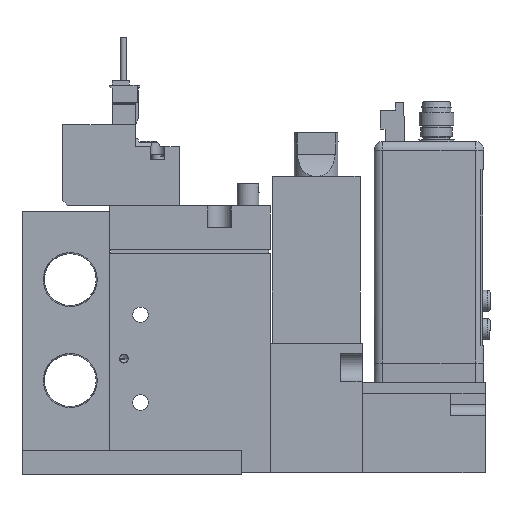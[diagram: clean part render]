
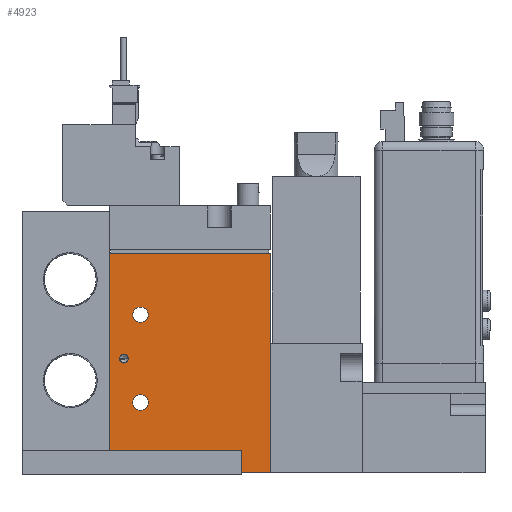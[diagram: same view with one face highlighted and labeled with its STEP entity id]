
A CAD part, left-side view. The second image highlights one B-rep face of the part: STEP entity #4923.
In plain terms, the highlighted planar face has unit normal (-1, 0, 0) as drawn and (1, 0, 0) by its records, which use the part's own axes.
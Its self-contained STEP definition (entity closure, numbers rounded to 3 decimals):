
#4923=ADVANCED_FACE('',(#10020,#10021,#10022,#10023),#10024,.F.);
#10020=FACE_BOUND('',#20367,.T.);
#10021=FACE_BOUND('',#20368,.T.);
#10022=FACE_BOUND('',#20369,.T.);
#10023=FACE_OUTER_BOUND('',#20370,.T.);
#10024=PLANE('',#20371);
#20367=EDGE_LOOP('',(#33325));
#20368=EDGE_LOOP('',(#33326));
#20369=EDGE_LOOP('',(#33327));
#20370=EDGE_LOOP('',(#33328,#33329,#33330,#33331));
#20371=AXIS2_PLACEMENT_3D('',#33332,#33333,#33334);
#33325=ORIENTED_EDGE('',*,*,#66540,.F.);
#33326=ORIENTED_EDGE('',*,*,#66541,.T.);
#33327=ORIENTED_EDGE('',*,*,#66542,.T.);
#33328=ORIENTED_EDGE('',*,*,#66535,.T.);
#33329=ORIENTED_EDGE('',*,*,#66532,.F.);
#33330=ORIENTED_EDGE('',*,*,#66536,.F.);
#33331=ORIENTED_EDGE('',*,*,#66527,.T.);
#33332=CARTESIAN_POINT('',(8.5,-19.444,50.0));
#33333=DIRECTION('',(-1.0,0.0,0.0));
#33334=DIRECTION('',(0.0,0.0,1.0));
#66527=EDGE_CURVE('',#79102,#79100,#79103,.T.);
#66532=EDGE_CURVE('',#79109,#79107,#79111,.T.);
#66535=EDGE_CURVE('',#79100,#79107,#79116,.T.);
#66536=EDGE_CURVE('',#79102,#79109,#79117,.T.);
#66540=EDGE_CURVE('',#79124,#79124,#79125,.T.);
#66541=EDGE_CURVE('',#79126,#79126,#79127,.T.);
#66542=EDGE_CURVE('',#79128,#79128,#79129,.T.);
#79100=VERTEX_POINT('',#98766);
#79102=VERTEX_POINT('',#98769);
#79103=LINE('',#98770,#98771);
#79107=VERTEX_POINT('',#98776);
#79109=VERTEX_POINT('',#98779);
#79111=LINE('',#98782,#98783);
#79116=LINE('',#98788,#98789);
#79117=LINE('',#98790,#98791);
#79124=VERTEX_POINT('',#98798);
#79125=CIRCLE('',#98799,1.0);
#79126=VERTEX_POINT('',#98800);
#79127=CIRCLE('',#98801,1.75);
#79128=VERTEX_POINT('',#98802);
#79129=CIRCLE('',#98803,1.75);
#98766=CARTESIAN_POINT('',(8.5,-19.444,0.0));
#98769=CARTESIAN_POINT('',(8.5,-19.444,50.0));
#98770=CARTESIAN_POINT('',(8.5,-19.444,50.0));
#98771=VECTOR('',#126036,1.0);
#98776=CARTESIAN_POINT('',(8.5,17.056,0.0));
#98779=CARTESIAN_POINT('',(8.5,17.056,50.0));
#98782=CARTESIAN_POINT('',(8.5,17.056,50.0));
#98783=VECTOR('',#126043,1.0);
#98788=CARTESIAN_POINT('',(8.5,-19.444,0.0));
#98789=VECTOR('',#126050,1.0);
#98790=CARTESIAN_POINT('',(8.5,-19.444,50.0));
#98791=VECTOR('',#126051,1.0);
#98798=CARTESIAN_POINT('',(8.5,-17.244,26.0));
#98799=AXIS2_PLACEMENT_3D('',#126061,#126062,#126063);
#98800=CARTESIAN_POINT('',(8.5,-10.694,36.0));
#98801=AXIS2_PLACEMENT_3D('',#126064,#126065,#126066);
#98802=CARTESIAN_POINT('',(8.5,-10.694,16.0));
#98803=AXIS2_PLACEMENT_3D('',#126067,#126068,#126069);
#126036=DIRECTION('',(0.0,0.0,-1.0));
#126043=DIRECTION('',(0.0,0.0,-1.0));
#126050=DIRECTION('',(0.0,1.0,0.0));
#126051=DIRECTION('',(0.0,1.0,0.0));
#126061=CARTESIAN_POINT('',(8.5,-16.244,26.0));
#126062=DIRECTION('',(1.0,0.,0.0));
#126063=DIRECTION('',(0.,-1.0,0.0));
#126064=CARTESIAN_POINT('',(8.5,-12.444,36.0));
#126065=DIRECTION('',(-1.0,0.0,0.0));
#126066=DIRECTION('',(0.0,1.0,0.0));
#126067=CARTESIAN_POINT('',(8.5,-12.444,16.0));
#126068=DIRECTION('',(-1.0,0.0,0.0));
#126069=DIRECTION('',(0.0,1.0,0.0));
